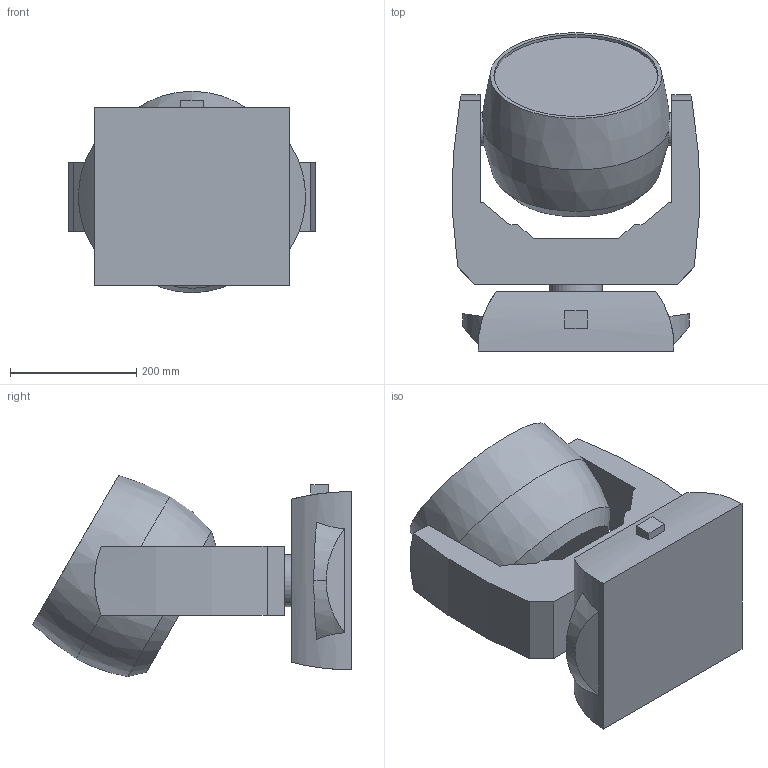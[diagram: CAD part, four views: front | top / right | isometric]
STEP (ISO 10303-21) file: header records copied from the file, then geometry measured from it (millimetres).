
FILE_DESCRIPTION(/* description */ (''),/* implementation_level */ '2;1');
FILE_NAME(/* name */ 'C:\Users\dgooch\Documents\CADENG\PRO\Rogue R3X Wash\Rogue R3X Wash_3D_CAD\Rogue R3X Wash_30.stp',/* time_stamp */ '2022-03-28T09:35:40-04:00',/* author */ ('dgooch'),/* organization */ (''),/* preprocessor_version */ 'ST-DEVELOPER v18.1',/* originating_system */ 'Autodesk Inventor 2022',/* authorisation */ '');
FILE_SCHEMA (('AUTOMOTIVE_DESIGN { 1 0 10303 214 3 1 1 }'));
Length unit declared in the file: millimetre
Products named in the file (4): Rogue R3X Wash_30; Head (1); Arm (1); Base (1)
Assembly tree (3 placements, depth 2):
  Rogue R3X Wash_30
    Head (1)
    Arm (1)
    Base (1)
Bounding box: 392.23 x 505.52 x 319.39 mm (x, y, z)
Volume: 25496233.3 mm3; surface area: 943358.9 mm2
Topology: 3 solids, 3 shells, 52 faces, 124 edges, 82 vertices
Faces by surface type: plane 30, cylinder 19, bspline 2, cone 1
Full cylindrical faces by diameter (mm): 52 x2, 83 x2, 260.299 x1
Entity records: 1982 total; most frequent: CARTESIAN_POINT 615, ORIENTED_EDGE 248, DIRECTION 246, EDGE_CURVE 124, AXIS2_PLACEMENT_3D 85, VERTEX_POINT 82, LINE 76, VECTOR 76
